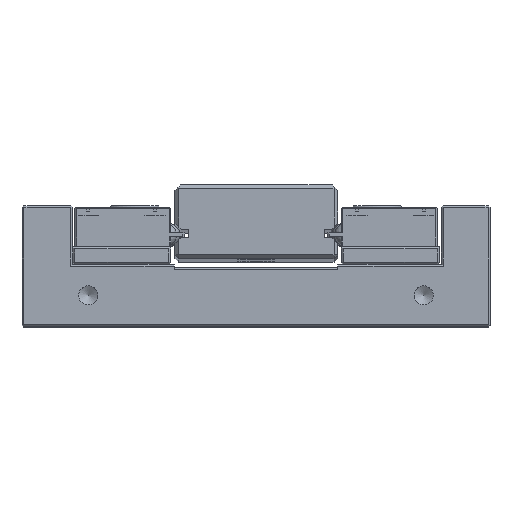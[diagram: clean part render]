
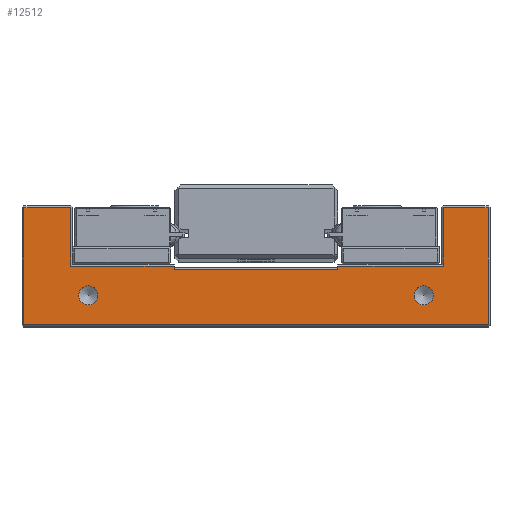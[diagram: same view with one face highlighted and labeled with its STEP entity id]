
A CAD part, top view. The second image highlights one B-rep face of the part: STEP entity #12512.
In plain terms, the highlighted planar face has unit normal (0, 0, 1).
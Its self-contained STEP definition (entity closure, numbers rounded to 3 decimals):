
#411=FACE_BOUND('',#2283,.T.);
#412=FACE_BOUND('',#2284,.T.);
#918=PLANE('',#13588);
#1532=FACE_OUTER_BOUND('',#2282,.T.);
#2282=EDGE_LOOP('',(#10531,#10532,#10533,#10534,#10535,#10536,#10537,#10538,
#10539,#10540,#10541,#10542));
#2283=EDGE_LOOP('',(#10543));
#2284=EDGE_LOOP('',(#10544));
#3268=LINE('',#20642,#4298);
#3340=LINE('',#20856,#4370);
#3369=LINE('',#20910,#4399);
#3371=LINE('',#20913,#4401);
#3373=LINE('',#20917,#4403);
#3374=LINE('',#20919,#4404);
#3376=LINE('',#20923,#4406);
#3377=LINE('',#20925,#4407);
#3380=LINE('',#20930,#4410);
#3382=LINE('',#20934,#4412);
#3384=LINE('',#20938,#4414);
#3385=LINE('',#20940,#4415);
#4298=VECTOR('',#16114,10.);
#4370=VECTOR('',#16338,10.);
#4399=VECTOR('',#16401,10.);
#4401=VECTOR('',#16405,10.);
#4403=VECTOR('',#16411,10.);
#4404=VECTOR('',#16414,10.);
#4406=VECTOR('',#16420,10.);
#4407=VECTOR('',#16423,10.);
#4410=VECTOR('',#16428,10.);
#4412=VECTOR('',#16432,10.);
#4414=VECTOR('',#16438,10.);
#4415=VECTOR('',#16441,10.);
#4864=CIRCLE('',#13589,2.459);
#4865=CIRCLE('',#13590,2.459);
#5801=VERTEX_POINT('',#20635);
#5804=VERTEX_POINT('',#20640);
#5862=VERTEX_POINT('',#20821);
#5867=VERTEX_POINT('',#20839);
#5869=VERTEX_POINT('',#20853);
#5870=VERTEX_POINT('',#20855);
#5871=VERTEX_POINT('',#20859);
#5873=VERTEX_POINT('',#20871);
#5874=VERTEX_POINT('',#20876);
#5876=VERTEX_POINT('',#20894);
#5879=VERTEX_POINT('',#20929);
#5880=VERTEX_POINT('',#20933);
#5881=VERTEX_POINT('',#20941);
#5882=VERTEX_POINT('',#20943);
#7352=EDGE_CURVE('',#5804,#5801,#3268,.T.);
#7458=EDGE_CURVE('',#5869,#5870,#3340,.T.);
#7487=EDGE_CURVE('',#5873,#5876,#3369,.T.);
#7489=EDGE_CURVE('',#5876,#5874,#3371,.T.);
#7491=EDGE_CURVE('',#5874,#5871,#3373,.T.);
#7492=EDGE_CURVE('',#5870,#5873,#3374,.T.);
#7494=EDGE_CURVE('',#5871,#5867,#3376,.T.);
#7495=EDGE_CURVE('',#5867,#5862,#3377,.T.);
#7498=EDGE_CURVE('',#5862,#5879,#3380,.T.);
#7500=EDGE_CURVE('',#5879,#5880,#3382,.T.);
#7502=EDGE_CURVE('',#5804,#5880,#3384,.T.);
#7503=EDGE_CURVE('',#5869,#5801,#3385,.T.);
#7504=EDGE_CURVE('',#5881,#5881,#4864,.T.);
#7505=EDGE_CURVE('',#5882,#5882,#4865,.T.);
#10531=ORIENTED_EDGE('',*,*,#7502,.T.);
#10532=ORIENTED_EDGE('',*,*,#7500,.F.);
#10533=ORIENTED_EDGE('',*,*,#7498,.F.);
#10534=ORIENTED_EDGE('',*,*,#7495,.F.);
#10535=ORIENTED_EDGE('',*,*,#7494,.F.);
#10536=ORIENTED_EDGE('',*,*,#7491,.F.);
#10537=ORIENTED_EDGE('',*,*,#7489,.F.);
#10538=ORIENTED_EDGE('',*,*,#7487,.F.);
#10539=ORIENTED_EDGE('',*,*,#7492,.F.);
#10540=ORIENTED_EDGE('',*,*,#7458,.F.);
#10541=ORIENTED_EDGE('',*,*,#7503,.T.);
#10542=ORIENTED_EDGE('',*,*,#7352,.F.);
#10543=ORIENTED_EDGE('',*,*,#7504,.T.);
#10544=ORIENTED_EDGE('',*,*,#7505,.T.);
#12512=ADVANCED_FACE('',(#1532,#411,#412),#918,.T.);
#13588=AXIS2_PLACEMENT_3D('',#20939,#16439,#16440);
#13589=AXIS2_PLACEMENT_3D('',#20942,#16442,#16443);
#13590=AXIS2_PLACEMENT_3D('',#20944,#16444,#16445);
#16114=DIRECTION('',(1.,0.,0.));
#16338=DIRECTION('',(1.,0.,0.));
#16401=DIRECTION('',(1.,0.,0.));
#16405=DIRECTION('',(0.,-1.,0.));
#16411=DIRECTION('',(-1.,0.,0.));
#16414=DIRECTION('',(0.,1.,0.));
#16420=DIRECTION('',(0.,1.,0.));
#16423=DIRECTION('',(1.,0.,0.));
#16428=DIRECTION('',(0.,-1.,0.));
#16432=DIRECTION('',(1.,0.,0.));
#16438=DIRECTION('',(0.,1.,0.));
#16439=DIRECTION('center_axis',(0.,0.,1.));
#16440=DIRECTION('ref_axis',(1.,0.,0.));
#16441=DIRECTION('',(0.,-1.,0.));
#16442=DIRECTION('center_axis',(0.,0.,-1.));
#16443=DIRECTION('ref_axis',(-1.,0.,0.));
#16444=DIRECTION('center_axis',(0.,0.,-1.));
#16445=DIRECTION('ref_axis',(-1.,0.,0.));
#20635=CARTESIAN_POINT('',(23.66,11.195,52.5));
#20640=CARTESIAN_POINT('',(-18.34,11.195,52.5));
#20642=CARTESIAN_POINT('',(13.16,11.195,52.5));
#20821=CARTESIAN_POINT('',(-44.84,26.995,52.5));
#20839=CARTESIAN_POINT('',(-56.84,26.995,52.5));
#20853=CARTESIAN_POINT('',(23.66,11.995,52.5));
#20855=CARTESIAN_POINT('',(50.66,11.995,52.5));
#20856=CARTESIAN_POINT('',(26.41,11.995,52.5));
#20859=CARTESIAN_POINT('',(-56.84,-3.005,52.5));
#20871=CARTESIAN_POINT('',(50.66,26.995,52.5));
#20876=CARTESIAN_POINT('',(62.16,-3.005,52.5));
#20894=CARTESIAN_POINT('',(62.16,26.995,52.5));
#20910=CARTESIAN_POINT('',(32.66,26.995,52.5));
#20913=CARTESIAN_POINT('',(62.16,4.245,52.5));
#20917=CARTESIAN_POINT('',(-27.34,-3.005,52.5));
#20919=CARTESIAN_POINT('',(50.66,19.745,52.5));
#20923=CARTESIAN_POINT('',(-56.84,19.745,52.5));
#20925=CARTESIAN_POINT('',(-20.84,26.995,52.5));
#20929=CARTESIAN_POINT('',(-44.84,11.995,52.5));
#20930=CARTESIAN_POINT('',(-44.84,12.245,52.5));
#20933=CARTESIAN_POINT('',(-18.34,11.995,52.5));
#20934=CARTESIAN_POINT('',(-7.84,11.995,52.5));
#20938=CARTESIAN_POINT('',(-18.34,11.695,52.5));
#20939=CARTESIAN_POINT('Origin',(2.66,11.995,52.5));
#20940=CARTESIAN_POINT('',(23.66,12.495,52.5));
#20941=CARTESIAN_POINT('',(-37.881,4.495,52.5));
#20942=CARTESIAN_POINT('Origin',(-40.34,4.495,52.5));
#20943=CARTESIAN_POINT('',(48.119,4.495,52.5));
#20944=CARTESIAN_POINT('Origin',(45.66,4.495,52.5));
